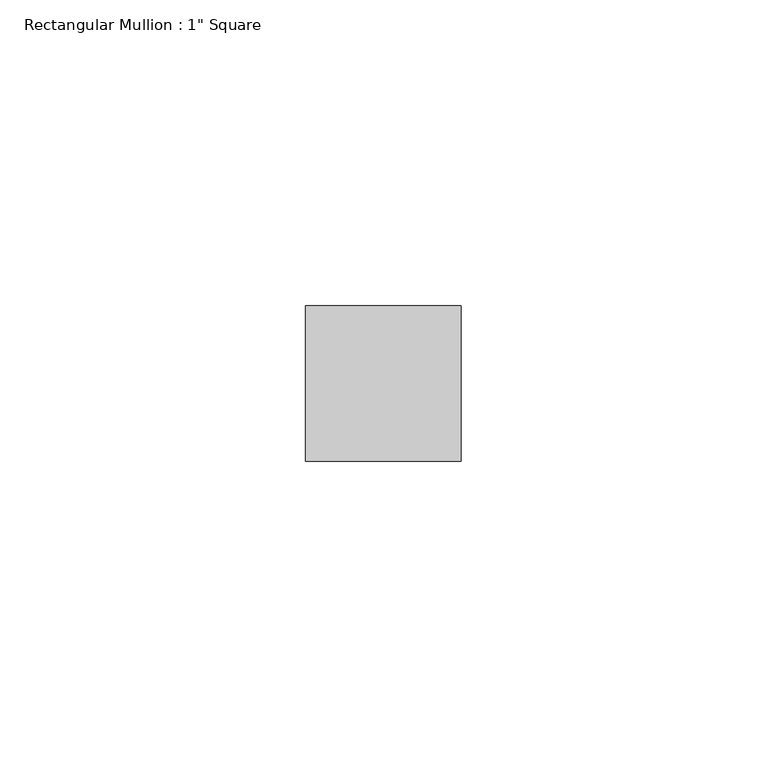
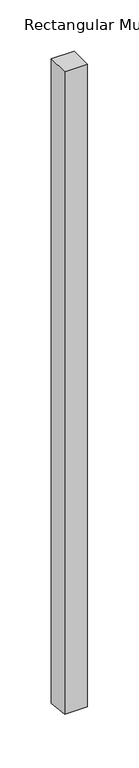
"""IFC4 building model written with IfcOpenShell, lengths in millimetres: member geometry."""

import ifcopenshell
import ifcopenshell.guid

model = None  # the IFC model being written
_history = None  # IfcOwnerHistory: only IFC2X3 demands one
_inside = {}  # id of a spatial element -> (the spatial element, [elements in it])
_under = {}  # id of a project, library or spatial element -> (it, [spatial elements below it])
_declared = {}  # id of a project -> (the project, [libraries it declares])
_typed = {}  # id of a type object -> (the type object, [elements of that type])
_made_of = {}  # id of a material, layer set ... -> (it, [elements and type objects made of it])


def new_model(schema):
    """Start an empty IFC model of exactly this schema.

    Asked for "IFC4X3", IfcOpenShell would pick the latest addendum, in which some entities
    have other attributes; the version numbers below select the first issue.
    IFC2X3 requires an IfcOwnerHistory on every rooted entity: one is made here for all.
    """
    global model, _history
    if schema == "IFC4X3":
        model = ifcopenshell.file(schema_version=(4, 3, 0, 0))
    else:
        model = ifcopenshell.file(schema=schema)
    _inside.clear()
    _under.clear()
    _declared.clear()
    _typed.clear()
    _made_of.clear()
    _history = None
    if model.schema == "IFC2X3":
        org = make("IfcOrganization", Name="unknown")
        user = make(
            "IfcPersonAndOrganization",
            ThePerson=make("IfcPerson", FamilyName="unknown"),
            TheOrganization=org,
        )
        app = make(
            "IfcApplication",
            ApplicationDeveloper=org,
            Version="unknown",
            ApplicationFullName="unknown",
            ApplicationIdentifier="unknown",
        )
        _history = make(
            "IfcOwnerHistory",
            OwningUser=user,
            OwningApplication=app,
            ChangeAction="ADDED",
            CreationDate=0,
        )
    return model


def make(cls, **values):
    """One entity of the class cls with the attributes given. An attribute that is None is left unset."""
    return model.create_entity(
        cls, **{name: value for name, value in values.items() if value is not None}
    )


def rooted(cls, **values):
    """An entity with a GlobalId (a new one), such as an element, a storey or a relation."""
    return make(cls, GlobalId=ifcopenshell.guid.new(), OwnerHistory=_history, **values)


def si_unit(unit_type, name, prefix=None):
    """IfcSIUnit, for example si_unit("LENGTHUNIT", "METRE", prefix="MILLI")."""
    return make("IfcSIUnit", UnitType=unit_type, Prefix=prefix, Name=name)


def assignment(units):
    """IfcUnitAssignment: the units of a project."""
    return None if units is None else make("IfcUnitAssignment", Units=units)


def point(xyz):
    """IfcCartesianPoint."""
    return None if xyz is None else make("IfcCartesianPoint", Coordinates=xyz)


def direction(xyz):
    """IfcDirection."""
    return None if xyz is None else make("IfcDirection", DirectionRatios=xyz)


def frame(location, z_axis=None, x_axis=None):
    """IfcAxis2Placement3D, a coordinate frame: its origin and axes. An axis left out is left unset."""
    return make(
        "IfcAxis2Placement3D",
        Location=point(location),
        Axis=direction(z_axis),
        RefDirection=direction(x_axis),
    )


def origin():
    """The frame at (0, 0, 0) with its axes left unset."""
    return frame((0.0, 0.0, 0.0))


def place(relative_to, where):
    """IfcLocalPlacement: puts the frame where relative to a parent placement (None: the world)."""
    return make(
        "IfcLocalPlacement", PlacementRelTo=relative_to, RelativePlacement=where
    )


def context(
    kind, dimensions, precision=None, world=None, true_north=None, identifier=None
):
    """IfcGeometricRepresentationContext, for example the 3D "Model" context."""
    return make(
        "IfcGeometricRepresentationContext",
        ContextIdentifier=identifier,
        ContextType=kind,
        CoordinateSpaceDimension=dimensions,
        Precision=precision,
        WorldCoordinateSystem=world,
        TrueNorth=true_north,
    )


def project(units=None, contexts=None):
    """IfcProject with its units and contexts."""
    return rooted(
        "IfcProject",
        Name="project",
        RepresentationContexts=contexts,
        UnitsInContext=assignment(units),
    )


def spatial(cls, under=None, at=None, **own):
    """A site, building, storey or space (cls), placed at a placement, below another one or the project."""
    s = rooted(cls, ObjectPlacement=at, **own)
    if under is not None:
        _under.setdefault(under.id(), (under, []))[1].append(s)
    return s


def faces_of(points, faces, orient=None, outer=None):
    """IfcFace entities. A face is a list of loops; a loop is a list of indices into points, from 0.

    orient and outer hold one flag for each loop. By default every Orientation is true, the
    first loop of a face is its IfcFaceOuterBound and the others are IfcFaceBound.
    """
    made = []
    for i, loops in enumerate(faces):
        bounds = []
        for j, loop in enumerate(loops):
            is_outer = j == 0 if outer is None else outer[i][j]
            bounds.append(
                make(
                    "IfcFaceOuterBound" if is_outer else "IfcFaceBound",
                    Bound=make("IfcPolyLoop", Polygon=[points[k] for k in loop]),
                    Orientation=True if orient is None else orient[i][j],
                )
            )
        made.append(make("IfcFace", Bounds=bounds))
    return made


def faceted_brep(points, faces, orient=None, outer=None, voids=None):
    """IfcFacetedBrep: a solid bounded by flat faces; with voids (closed shells), ...WithVoids."""
    shared = [point(p) for p in points]
    hull = make("IfcClosedShell", CfsFaces=faces_of(shared, faces, orient, outer))
    if voids is None:
        return make("IfcFacetedBrep", Outer=hull)
    return make(
        "IfcFacetedBrepWithVoids",
        Outer=hull,
        Voids=[
            make(cls, CfsFaces=faces_of(shared, fs, o, b)) for cls, fs, o, b in voids
        ],
    )


def shape(context_of_items, identifier, shape_type, items):
    """IfcShapeRepresentation: the items that make up one representation, for example the "Body"."""
    return make(
        "IfcShapeRepresentation",
        ContextOfItems=context_of_items,
        RepresentationIdentifier=identifier,
        RepresentationType=shape_type,
        Items=items,
    )


def source(mapping_origin, context_of_items, identifier, shape_type, items):
    """IfcRepresentationMap: a shape defined once, which mapped items show again and again."""
    return make(
        "IfcRepresentationMap",
        MappingOrigin=mapping_origin,
        MappedRepresentation=shape(context_of_items, identifier, shape_type, items),
    )


def transform(
    local_origin,
    x_axis=None,
    y_axis=None,
    z_axis=None,
    scale=None,
    scale2=None,
    scale3=None,
    uniform=True,
):
    """IfcCartesianTransformationOperator3D, or its non-uniform kind. x_axis, y_axis, z_axis: its Axis1, 2, 3."""
    if uniform:
        return make(
            "IfcCartesianTransformationOperator3D",
            Axis1=direction(x_axis),
            Axis2=direction(y_axis),
            LocalOrigin=point(local_origin),
            Scale=scale,
            Axis3=direction(z_axis),
        )
    return make(
        "IfcCartesianTransformationOperator3DnonUniform",
        Axis1=direction(x_axis),
        Axis2=direction(y_axis),
        LocalOrigin=point(local_origin),
        Scale=scale,
        Axis3=direction(z_axis),
        Scale2=scale2,
        Scale3=scale3,
    )


def mapped(mapping_source, mapping_target):
    """IfcMappedItem: shows the shape of a source again, moved by a transform."""
    return make(
        "IfcMappedItem", MappingSource=mapping_source, MappingTarget=mapping_target
    )


def made_of(thing, what):
    """Note that an element or type object is made of a material, layer set ...; save() writes the relation."""
    if what is not None:
        _made_of.setdefault(what.id(), (what, []))[1].append(thing)
    return thing


def element(
    cls,
    number,
    at=None,
    inside=None,
    cuts=None,
    type_object=None,
    material=None,
    context=None,
    identifier="Body",
    shape_type=None,
    held_by="IfcProductDefinitionShape",
    body=None,
    shapes=None,
    **own,
):
    """One element of the class cls, such as IfcWall. Its Tag is "e" and its number.

    at: its placement. inside: the storey or other place that contains it. cuts: it is an
    opening in that element (IfcRelVoidsElement). A single representation is given by context,
    identifier, shape_type and body (its items); several are given by shapes. held_by: the class
    of the entity that holds the representations. save() writes the other relations.
    """
    e = rooted(cls, Tag="e%d" % number, ObjectPlacement=at, **own)
    if body is not None:
        shapes = [shape(context, identifier, shape_type, body)]
    if shapes is not None:
        e.Representation = make(held_by, Representations=shapes)
    if inside is not None:
        _inside.setdefault(inside.id(), (inside, []))[1].append(e)
    if cuts is not None:
        rooted(
            "IfcRelVoidsElement", RelatingBuildingElement=cuts, RelatedOpeningElement=e
        )
    if type_object is not None:
        _typed.setdefault(type_object.id(), (type_object, []))[1].append(e)
    return made_of(e, material)


def aggregate(whole, parts):
    """IfcRelAggregates: a whole, such as a stair, and the parts it consists of."""
    return rooted("IfcRelAggregates", RelatingObject=whole, RelatedObjects=parts)


def save(model, path):
    """Write the relations noted so far, then the file.

    IfcRelAggregates (storeys below a building ...), IfcRelContainedInSpatialStructure (elements
    in a storey), IfcRelDefinesByType, IfcRelAssociatesMaterial and IfcRelDeclares: one each for
    every whole, place, type object, material and project.
    """
    for whole, parts in _under.values():
        aggregate(whole, parts)
    for where, things in _inside.values():
        rooted(
            "IfcRelContainedInSpatialStructure",
            RelatedElements=things,
            RelatingStructure=where,
        )
    for kind, things in _typed.values():
        rooted("IfcRelDefinesByType", RelatedObjects=things, RelatingType=kind)
    for what, things in _made_of.values():
        rooted("IfcRelAssociatesMaterial", RelatedObjects=things, RelatingMaterial=what)
    for by, libraries in _declared.values():
        rooted("IfcRelDeclares", RelatingContext=by, RelatedDefinitions=libraries)
    model.write(path)


def member_656cd931(model_context):
    return source(origin(), model_context, "Body", "Brep", [
        faceted_brep([(0.0, 12.7, 0.0), (-25.4, 12.7, 0.0), (-25.4, -12.7, 0.0), (0.0, -12.7, 0.0), (0.0, 12.7, -764.1197762), (-25.4, 12.7, -764.0450699), (-25.4, -12.7, -761.4918177), (0.0, -12.7, -761.566524)], [[[0, 1, 2, 3]], [[1, 0, 4, 5]], [[2, 1, 5, 6]], [[3, 2, 6, 7]], [[0, 3, 7, 4]], [[4, 7, 6, 5]]]),
    ])


if __name__ == "__main__":
    model = new_model("IFC4")
    model_context = context("Model", 3, world=origin())
    ifc_project = project(units=[si_unit("LENGTHUNIT", "METRE", prefix="MILLI")], contexts=[model_context])
    site = spatial("IfcSite", under=ifc_project)
    building = spatial("IfcBuilding", under=site)
    placement = place(None, origin())
    member_shape = member_656cd931(model_context)
    element("IfcMember", 1, ObjectType="Rectangular Mullion : 1\" Square", at=placement, inside=building, context=model_context, shape_type="MappedRepresentation", body=[
        mapped(member_shape, transform((0.0, 0.0, 0.0), x_axis=(1.0, 0.0, 0.0), y_axis=(0.0, 1.0, 0.0), z_axis=(0.0, 0.0, 1.0))),
    ])
    save(model, "model.ifc")
